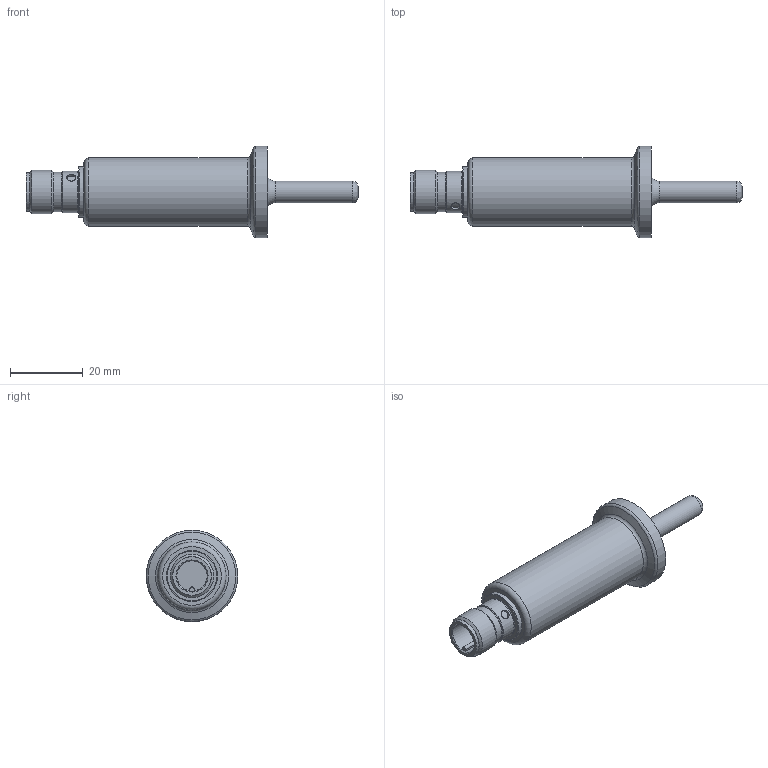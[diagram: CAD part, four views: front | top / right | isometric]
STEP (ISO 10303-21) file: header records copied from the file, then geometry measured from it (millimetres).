
FILE_DESCRIPTION( ( 'STEP AP203' ), ' ' );
FILE_NAME( 'p:/temp/worker_74/3488_2072/app_50_02016051809385770752512192d056f_000000_00_00_000000/format_1/TA2002.stp', '2016-05-18T07:38:58', ( '' ), ( '' ), ' ', 'PARTsolutions', ' ' );
FILE_SCHEMA( ( 'CONFIG_CONTROL_DESIGN' ) );
Length unit declared in the file: millimetre
Products named in the file (1): _TA2002
Bounding box: 91.35 x 25.2 x 25.2 mm (x, y, z)
Volume: 16389.9 mm3; surface area: 5373.1 mm2
Topology: 1 solids, 1 shells, 42 faces, 77 edges, 45 vertices
Faces by surface type: cylinder 15, plane 11, torus 9, cone 6, bspline 1
Full cylindrical faces by diameter (mm): 2.5 x2, 5.95 x1, 8.36 x1, 10.6 x1, 10.8 x1, 11.3 x1, 12 x1, 14 x1, 18.75 x1, 21.88 x1, 25.2 x1
Entity records: 1087 total; most frequent: CARTESIAN_POINT 314, DIRECTION 164, ORIENTED_EDGE 96, AXIS2_PLACEMENT_3D 78, EDGE_LOOP 78, FACE_OUTER_BOUND 64, EDGE_CURVE 48, VERTEX_POINT 44
